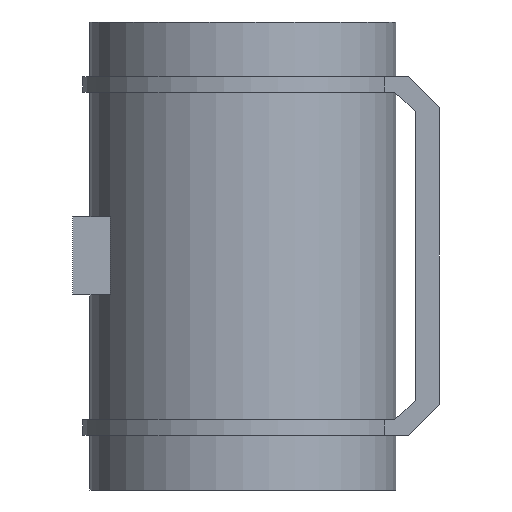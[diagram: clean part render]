
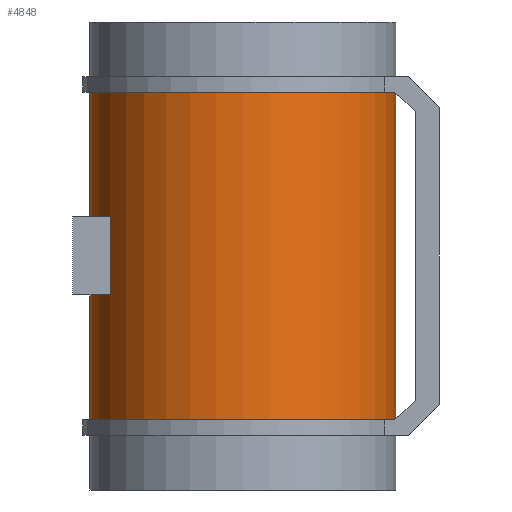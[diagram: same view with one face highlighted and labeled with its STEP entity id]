
A CAD part, front view. The second image highlights one B-rep face of the part: STEP entity #4848.
In plain terms, the highlighted cylindrical face has radius 98 mm (diameter 196 mm), a full revolution.
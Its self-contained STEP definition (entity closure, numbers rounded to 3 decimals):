
#176=FACE_BOUND('',#1928,.T.);
#177=FACE_BOUND('',#1929,.T.);
#677=LINE('',#6795,#1121);
#681=LINE('',#6804,#1125);
#1121=VECTOR('',#5526,10.);
#1125=VECTOR('',#5532,10.);
#1557=CYLINDRICAL_SURFACE('',#5230,98.);
#1604=FACE_OUTER_BOUND('',#1927,.T.);
#1927=EDGE_LOOP('',(#3826));
#1928=EDGE_LOOP('',(#3827,#3828,#3829,#3830));
#1929=EDGE_LOOP('',(#3831));
#2175=CIRCLE('',#5095,98.);
#2176=CIRCLE('',#5100,98.);
#2177=CIRCLE('',#5102,98.);
#2281=CIRCLE('',#5229,98.);
#2340=VERTEX_POINT('',#6774);
#2348=VERTEX_POINT('',#6793);
#2349=VERTEX_POINT('',#6794);
#2352=VERTEX_POINT('',#6802);
#2353=VERTEX_POINT('',#6803);
#2597=VERTEX_POINT('',#7797);
#2791=EDGE_CURVE('',#2340,#2340,#2175,.T.);
#2800=EDGE_CURVE('',#2348,#2349,#677,.T.);
#2804=EDGE_CURVE('',#2352,#2353,#681,.T.);
#2808=EDGE_CURVE('',#2353,#2348,#2176,.T.);
#2810=EDGE_CURVE('',#2349,#2352,#2177,.T.);
#3081=EDGE_CURVE('',#2597,#2597,#2281,.T.);
#3826=ORIENTED_EDGE('',*,*,#3081,.T.);
#3827=ORIENTED_EDGE('',*,*,#2800,.T.);
#3828=ORIENTED_EDGE('',*,*,#2810,.T.);
#3829=ORIENTED_EDGE('',*,*,#2804,.T.);
#3830=ORIENTED_EDGE('',*,*,#2808,.T.);
#3831=ORIENTED_EDGE('',*,*,#2791,.T.);
#4848=ADVANCED_FACE('',(#1604,#176,#177),#1557,.T.);
#5095=AXIS2_PLACEMENT_3D('',#6775,#5512,#5513);
#5100=AXIS2_PLACEMENT_3D('',#6811,#5538,#5539);
#5102=AXIS2_PLACEMENT_3D('',#6814,#5543,#5544);
#5229=AXIS2_PLACEMENT_3D('',#7798,#5924,#5925);
#5230=AXIS2_PLACEMENT_3D('',#7799,#5926,#5927);
#5512=DIRECTION('center_axis',(0.,0.,-1.));
#5513=DIRECTION('ref_axis',(-1.,0.,0.));
#5526=DIRECTION('',(0.,0.,1.));
#5532=DIRECTION('',(0.,0.,-1.));
#5538=DIRECTION('center_axis',(0.,0.,-1.));
#5539=DIRECTION('ref_axis',(-1.,0.,0.));
#5543=DIRECTION('center_axis',(0.,0.,1.));
#5544=DIRECTION('ref_axis',(-1.,0.,0.));
#5924=DIRECTION('center_axis',(0.,0.,
1.));
#5925=DIRECTION('ref_axis',(0.866,-0.5,0.));
#5926=DIRECTION('center_axis',(0.,0.,1.));
#5927=DIRECTION('ref_axis',(-1.,0.,0.));
#6774=CARTESIAN_POINT('',(84.87,49.,105.));
#6775=CARTESIAN_POINT('Origin',(0.,0.,105.));
#6793=CARTESIAN_POINT('',(-84.87,49.,-25.));
#6794=CARTESIAN_POINT('',(-84.87,49.,25.));
#6795=CARTESIAN_POINT('',(-84.87,49.,0.));
#6802=CARTESIAN_POINT('',(-84.87,-49.,25.));
#6803=CARTESIAN_POINT('',(-84.87,-49.,-25.));
#6804=CARTESIAN_POINT('',(-84.87,-49.,0.));
#6811=CARTESIAN_POINT('Origin',(0.,0.,-25.));
#6814=CARTESIAN_POINT('Origin',(0.,0.,25.));
#7797=CARTESIAN_POINT('',(84.87,49.,-105.));
#7798=CARTESIAN_POINT('Origin',(0.,0.,
-105.));
#7799=CARTESIAN_POINT('Origin',(0.,0.,0.));
